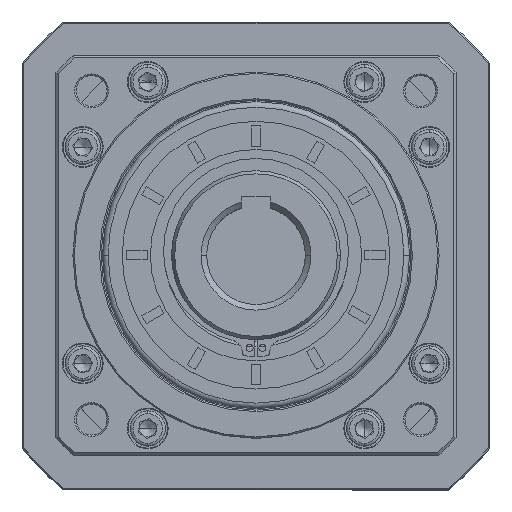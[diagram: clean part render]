
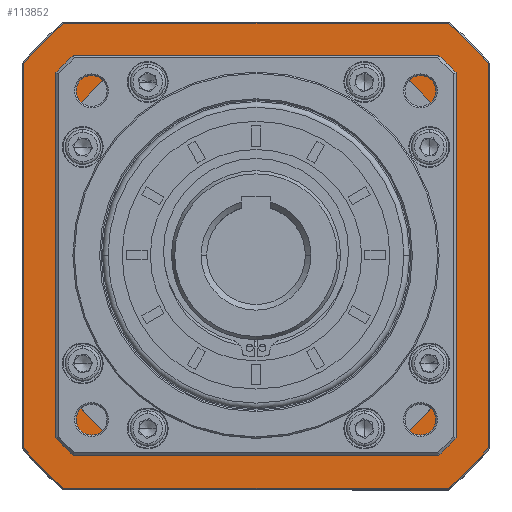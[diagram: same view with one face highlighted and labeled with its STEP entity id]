
A CAD part, top view. The second image highlights one B-rep face of the part: STEP entity #113852.
In plain terms, the highlighted planar face has unit normal (0, 0, 1).
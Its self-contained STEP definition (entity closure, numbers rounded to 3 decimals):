
#276 = CARTESIAN_POINT ( 'NONE',  ( 109.692, 159.153, 111.828 ) ) ;
#751 = VERTEX_POINT ( 'NONE', #7217 ) ;
#848 = DIRECTION ( 'NONE',  ( 0., 0., -1. ) ) ;
#1278 = CARTESIAN_POINT ( 'NONE',  ( 109.692, 76.653, 111.828 ) ) ;
#1612 = EDGE_CURVE ( 'NONE', #14294, #751, #66342, .T. ) ;
#3383 = CARTESIAN_POINT ( 'NONE',  ( 39.192, 5.653, 111.828 ) ) ;
#5162 = DIRECTION ( 'NONE',  ( 0., 1., 0. ) ) ;
#7131 = DIRECTION ( 'NONE',  ( 1., 0., 0. ) ) ;
#7217 = CARTESIAN_POINT ( 'NONE',  ( 177.83, -5.847, 111.828 ) ) ;
#7736 = VERTEX_POINT ( 'NONE', #17866 ) ;
#8242 = PLANE ( 'NONE',  #20118 ) ;
#8801 = CARTESIAN_POINT ( 'NONE',  ( 109.692, 76.653, 111.828 ) ) ;
#9103 = ORIENTED_EDGE ( 'NONE', *, *, #21019, .F. ) ;
#9959 = DIRECTION ( 'NONE',  ( 1., 0., 0. ) ) ;
#10819 = ORIENTED_EDGE ( 'NONE', *, *, #107691, .F. ) ;
#11512 = DIRECTION ( 'NONE',  ( 0., 1., 0. ) ) ;
#12931 = ORIENTED_EDGE ( 'NONE', *, *, #23857, .F. ) ;
#13851 = DIRECTION ( 'NONE',  ( -1., 0., 0. ) ) ;
#14294 = VERTEX_POINT ( 'NONE', #54388 ) ;
#14862 = EDGE_CURVE ( 'NONE', #32992, #7736, #101171, .T. ) ;
#15697 = EDGE_CURVE ( 'NONE', #101452, #105320, #91886, .T. ) ;
#17501 = DIRECTION ( 'NONE',  ( 1., 0., 0. ) ) ;
#17818 = ORIENTED_EDGE ( 'NONE', *, *, #19140, .F. ) ;
#17866 = CARTESIAN_POINT ( 'NONE',  ( 39.192, 34.775, 111.828 ) ) ;
#17889 = CARTESIAN_POINT ( 'NONE',  ( 180.692, 6.153, 111.828 ) ) ;
#17901 = DIRECTION ( 'NONE',  ( -1., 0., 0. ) ) ;
#19140 = EDGE_CURVE ( 'NONE', #26790, #79707, #49282, .T. ) ;
#19990 = CARTESIAN_POINT ( 'NONE',  ( 180.192, 5.653, 111.828 ) ) ;
#20118 = AXIS2_PLACEMENT_3D ( 'NONE', #36162, #848, #17901 ) ;
#21019 = EDGE_CURVE ( 'NONE', #37265, #109728, #105351, .T. ) ;
#22020 = ORIENTED_EDGE ( 'NONE', *, *, #1612, .F. ) ;
#23443 = CIRCLE ( 'NONE', #91405, 82. ) ;
#23617 = EDGE_CURVE ( 'NONE', #105320, #90242, #23443, .T. ) ;
#23857 = EDGE_CURVE ( 'NONE', #7736, #101452, #59649, .T. ) ;
#23881 = AXIS2_PLACEMENT_3D ( 'NONE', #8801, #106517, #80943 ) ;
#24210 = CARTESIAN_POINT ( 'NONE',  ( 39.192, 118.53, 111.828 ) ) ;
#25493 = CARTESIAN_POINT ( 'NONE',  ( 180.192, 118.53, 111.828 ) ) ;
#26790 = VERTEX_POINT ( 'NONE', #90124 ) ;
#27255 = AXIS2_PLACEMENT_3D ( 'NONE', #114639, #43261, #88262 ) ;
#28611 = FACE_OUTER_BOUND ( 'NONE', #39482, .T. ) ;
#28773 = EDGE_CURVE ( 'NONE', #104574, #73878, #88848, .T. ) ;
#30564 = DIRECTION ( 'NONE',  ( 0., 0., -1. ) ) ;
#30581 = ORIENTED_EDGE ( 'NONE', *, *, #14862, .F. ) ;
#30763 = ORIENTED_EDGE ( 'NONE', *, *, #60729, .F. ) ;
#31617 = AXIS2_PLACEMENT_3D ( 'NONE', #64430, #99186, #91038 ) ;
#32992 = VERTEX_POINT ( 'NONE', #24210 ) ;
#33766 = DIRECTION ( 'NONE',  ( 0., -1., 0. ) ) ;
#35442 = DIRECTION ( 'NONE',  ( 0., -1., 0. ) ) ;
#36162 = CARTESIAN_POINT ( 'NONE',  ( 109.692, 76.653, 111.828 ) ) ;
#37265 = VERTEX_POINT ( 'NONE', #72006 ) ;
#39482 = EDGE_LOOP ( 'NONE', ( #96301, #22020, #65254, #9103, #86449, #108109, #17818, #10819 ) ) ;
#39754 = EDGE_CURVE ( 'NONE', #751, #41594, #110550, .T. ) ;
#41594 = VERTEX_POINT ( 'NONE', #95629 ) ;
#43261 = DIRECTION ( 'NONE',  ( 0., 0., -1. ) ) ;
#43511 = ORIENTED_EDGE ( 'NONE', *, *, #104498, .F. ) ;
#45984 = LINE ( 'NONE', #51802, #111147 ) ;
#46271 = CARTESIAN_POINT ( 'NONE',  ( 109.692, 76.653, 111.828 ) ) ;
#49069 = CARTESIAN_POINT ( 'NONE',  ( 27.192, 76.653, 111.828 ) ) ;
#49205 = CARTESIAN_POINT ( 'NONE',  ( 109.692, 76.653, 111.828 ) ) ;
#49282 = LINE ( 'NONE', #49069, #50746 ) ;
#50746 = VECTOR ( 'NONE', #5162, 1000. ) ;
#51802 = CARTESIAN_POINT ( 'NONE',  ( 192.192, 76.653, 111.828 ) ) ;
#52825 = VECTOR ( 'NONE', #101242, 1000. ) ;
#53289 = CARTESIAN_POINT ( 'NONE',  ( 151.57, 6.153, 111.828 ) ) ;
#54388 = CARTESIAN_POINT ( 'NONE',  ( 192.192, 8.515, 111.828 ) ) ;
#57152 = DIRECTION ( 'NONE',  ( 0., 0., 1. ) ) ;
#58664 = CIRCLE ( 'NONE', #81687, 82. ) ;
#59324 = CIRCLE ( 'NONE', #23881, 107. ) ;
#59534 = EDGE_CURVE ( 'NONE', #73878, #32992, #81287, .T. ) ;
#59649 = CIRCLE ( 'NONE', #101093, 82. ) ;
#60404 = DIRECTION ( 'NONE',  ( 0., 0., 1. ) ) ;
#60729 = EDGE_CURVE ( 'NONE', #70072, #104574, #58664, .T. ) ;
#60754 = EDGE_CURVE ( 'NONE', #109728, #14294, #45984, .T. ) ;
#60761 = VECTOR ( 'NONE', #75484, 1000. ) ;
#62507 = CARTESIAN_POINT ( 'NONE',  ( 192.192, 144.79, 111.828 ) ) ;
#63740 = LINE ( 'NONE', #276, #67917 ) ;
#64325 = LINE ( 'NONE', #19990, #103037 ) ;
#64430 = CARTESIAN_POINT ( 'NONE',  ( 109.692, 76.653, 111.828 ) ) ;
#65254 = ORIENTED_EDGE ( 'NONE', *, *, #60754, .F. ) ;
#66342 = CIRCLE ( 'NONE', #78390, 107. ) ;
#67917 = VECTOR ( 'NONE', #9959, 1000. ) ;
#68196 = CARTESIAN_POINT ( 'NONE',  ( 151.57, 147.153, 111.828 ) ) ;
#68350 = VECTOR ( 'NONE', #17501, 1000. ) ;
#68546 = EDGE_CURVE ( 'NONE', #79707, #94173, #59324, .T. ) ;
#69980 = ORIENTED_EDGE ( 'NONE', *, *, #15697, .F. ) ;
#70072 = VERTEX_POINT ( 'NONE', #25493 ) ;
#70241 = EDGE_CURVE ( 'NONE', #94173, #37265, #63740, .T. ) ;
#71256 = CARTESIAN_POINT ( 'NONE',  ( 67.814, 147.153, 111.828 ) ) ;
#72006 = CARTESIAN_POINT ( 'NONE',  ( 177.83, 159.153, 111.828 ) ) ;
#72438 = CIRCLE ( 'NONE', #27255, 107. ) ;
#73080 = DIRECTION ( 'NONE',  ( 1., 0., 0. ) ) ;
#73878 = VERTEX_POINT ( 'NONE', #71256 ) ;
#75484 = DIRECTION ( 'NONE',  ( -1., 0., 0. ) ) ;
#77348 = CARTESIAN_POINT ( 'NONE',  ( 180.192, 34.775, 111.828 ) ) ;
#77650 = VECTOR ( 'NONE', #109992, 1000. ) ;
#78390 = AXIS2_PLACEMENT_3D ( 'NONE', #49205, #30564, #13851 ) ;
#79707 = VERTEX_POINT ( 'NONE', #86555 ) ;
#80943 = DIRECTION ( 'NONE',  ( -1., 0., 0. ) ) ;
#81287 = CIRCLE ( 'NONE', #91198, 82. ) ;
#81687 = AXIS2_PLACEMENT_3D ( 'NONE', #110162, #57152, #33766 ) ;
#86449 = ORIENTED_EDGE ( 'NONE', *, *, #70241, .F. ) ;
#86555 = CARTESIAN_POINT ( 'NONE',  ( 27.192, 144.79, 111.828 ) ) ;
#88262 = DIRECTION ( 'NONE',  ( -1., 0., 0. ) ) ;
#88848 = LINE ( 'NONE', #110502, #52825 ) ;
#90113 = DIRECTION ( 'NONE',  ( 0., 0., 1. ) ) ;
#90124 = CARTESIAN_POINT ( 'NONE',  ( 27.192, 8.515, 111.828 ) ) ;
#90242 = VERTEX_POINT ( 'NONE', #77348 ) ;
#91038 = DIRECTION ( 'NONE',  ( -1., 0., 0. ) ) ;
#91198 = AXIS2_PLACEMENT_3D ( 'NONE', #1278, #90113, #99014 ) ;
#91405 = AXIS2_PLACEMENT_3D ( 'NONE', #113444, #60404, #7131 ) ;
#91886 = LINE ( 'NONE', #17889, #68350 ) ;
#93238 = CARTESIAN_POINT ( 'NONE',  ( 67.814, 6.153, 111.828 ) ) ;
#94173 = VERTEX_POINT ( 'NONE', #98825 ) ;
#95629 = CARTESIAN_POINT ( 'NONE',  ( 41.554, -5.847, 111.828 ) ) ;
#96301 = ORIENTED_EDGE ( 'NONE', *, *, #39754, .F. ) ;
#97742 = EDGE_LOOP ( 'NONE', ( #30763, #43511, #111129, #69980, #12931, #30581, #113949, #115161 ) ) ;
#98825 = CARTESIAN_POINT ( 'NONE',  ( 41.554, 159.153, 111.828 ) ) ;
#99014 = DIRECTION ( 'NONE',  ( 1., 0., 0. ) ) ;
#99186 = DIRECTION ( 'NONE',  ( 0., 0., -1. ) ) ;
#100533 = DIRECTION ( 'NONE',  ( 0., 0., 1. ) ) ;
#101093 = AXIS2_PLACEMENT_3D ( 'NONE', #46271, #100533, #73080 ) ;
#101171 = LINE ( 'NONE', #3383, #77650 ) ;
#101242 = DIRECTION ( 'NONE',  ( -1., 0., 0. ) ) ;
#101452 = VERTEX_POINT ( 'NONE', #93238 ) ;
#102555 = CARTESIAN_POINT ( 'NONE',  ( 109.692, -5.847, 111.828 ) ) ;
#103037 = VECTOR ( 'NONE', #11512, 1000. ) ;
#104498 = EDGE_CURVE ( 'NONE', #90242, #70072, #64325, .T. ) ;
#104574 = VERTEX_POINT ( 'NONE', #68196 ) ;
#105320 = VERTEX_POINT ( 'NONE', #53289 ) ;
#105351 = CIRCLE ( 'NONE', #31617, 107. ) ;
#106284 = FACE_BOUND ( 'NONE', #97742, .T. ) ;
#106517 = DIRECTION ( 'NONE',  ( 0., 0., -1. ) ) ;
#107691 = EDGE_CURVE ( 'NONE', #41594, #26790, #72438, .T. ) ;
#108109 = ORIENTED_EDGE ( 'NONE', *, *, #68546, .F. ) ;
#109728 = VERTEX_POINT ( 'NONE', #62507 ) ;
#109992 = DIRECTION ( 'NONE',  ( 0., -1., 0. ) ) ;
#110162 = CARTESIAN_POINT ( 'NONE',  ( 109.692, 76.653, 111.828 ) ) ;
#110502 = CARTESIAN_POINT ( 'NONE',  ( 180.692, 147.153, 111.828 ) ) ;
#110550 = LINE ( 'NONE', #102555, #60761 ) ;
#111129 = ORIENTED_EDGE ( 'NONE', *, *, #23617, .F. ) ;
#111147 = VECTOR ( 'NONE', #35442, 1000. ) ;
#113444 = CARTESIAN_POINT ( 'NONE',  ( 109.692, 76.653, 111.828 ) ) ;
#113852 = ADVANCED_FACE ( 'NONE', ( #28611, #106284 ), #8242, .F. ) ;
#113949 = ORIENTED_EDGE ( 'NONE', *, *, #59534, .F. ) ;
#114639 = CARTESIAN_POINT ( 'NONE',  ( 109.692, 76.653, 111.828 ) ) ;
#115161 = ORIENTED_EDGE ( 'NONE', *, *, #28773, .F. ) ;
